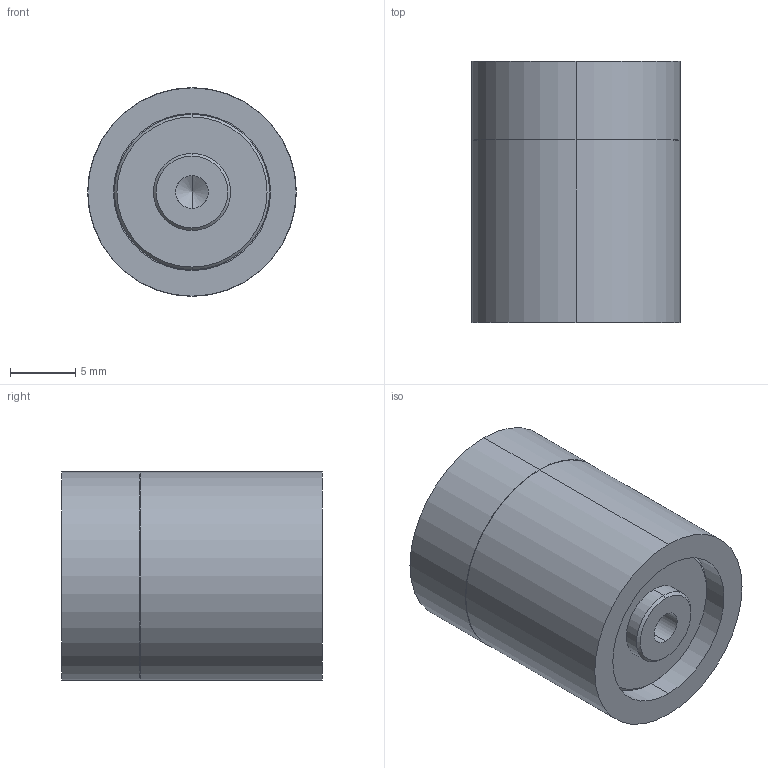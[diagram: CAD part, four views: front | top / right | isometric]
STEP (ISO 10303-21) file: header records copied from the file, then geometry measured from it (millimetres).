
FILE_DESCRIPTION (( 'STEP AP203' ), '1' );
FILE_NAME ('VA16.STEP', '2008-04-21T07:17:17', ( ' ' ), ( ' ' ), 'SwSTEP 2.0', 'SolidWorks 2005204', '' );
FILE_SCHEMA (( 'CONFIG_CONTROL_DESIGN' ));
Length unit declared in the file: millimetre
Products named in the file (1): VA16
Bounding box: 16 x 20 x 16 mm (x, y, z)
Volume: 3539.5 mm3; surface area: 2796 mm2
Topology: 2 solids, 2 shells, 42 faces, 88 edges, 53 vertices
Faces by surface type: cylinder 20, cone 14, plane 8
Entity records: 1309 total; most frequent: CARTESIAN_POINT 310, DIRECTION 208, ORIENTED_EDGE 172, AXIS2_PLACEMENT_3D 87, EDGE_CURVE 86, VERTEX_POINT 53, EDGE_LOOP 53, CIRCLE 44
